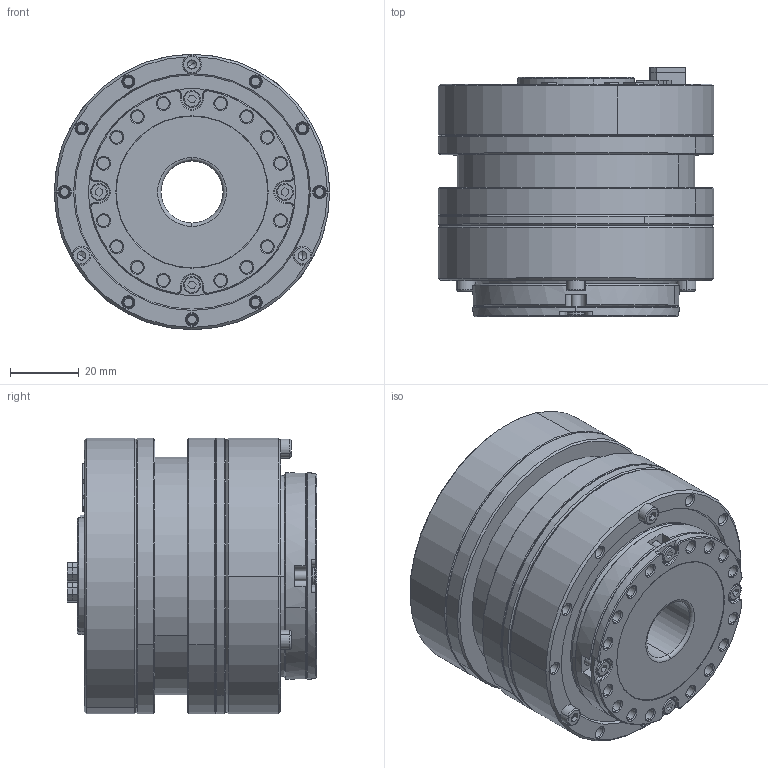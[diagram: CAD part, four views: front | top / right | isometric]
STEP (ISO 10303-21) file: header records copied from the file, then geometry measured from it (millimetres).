
FILE_DESCRIPTION (( 'STEP AP203' ), '1' );
FILE_NAME ('CRA-RI60-80-PRO-2-xxx-B0.STEP', '2024-11-11T05:47:25', ( '' ), ( '' ), 'SwSTEP 2.0', 'SolidWorks 2021', '' );
FILE_SCHEMA (( 'CONFIG_CONTROL_DESIGN' ));
Length unit declared in the file: millimetre
Products named in the file (1): CRA-RI60-80-PRO-2-xxx-B0
Bounding box: 80 x 72.5 x 80 mm (x, y, z)
Surface area: 53165.2 mm2 (no closed solid volume)
Topology: 0 solids, 82 shells, 714 faces, 2517 edges, 1866 vertices
Faces by surface type: plane 282, cylinder 210, cone 191, torus 30, sphere 1
Entity records: 30405 total; most frequent: CARTESIAN_POINT 8624, DIRECTION 4704, ORIENTED_EDGE 3772, EDGE_CURVE 2502, VERTEX_POINT 1866, AXIS2_PLACEMENT_3D 1693, LINE 1318, VECTOR 1318
